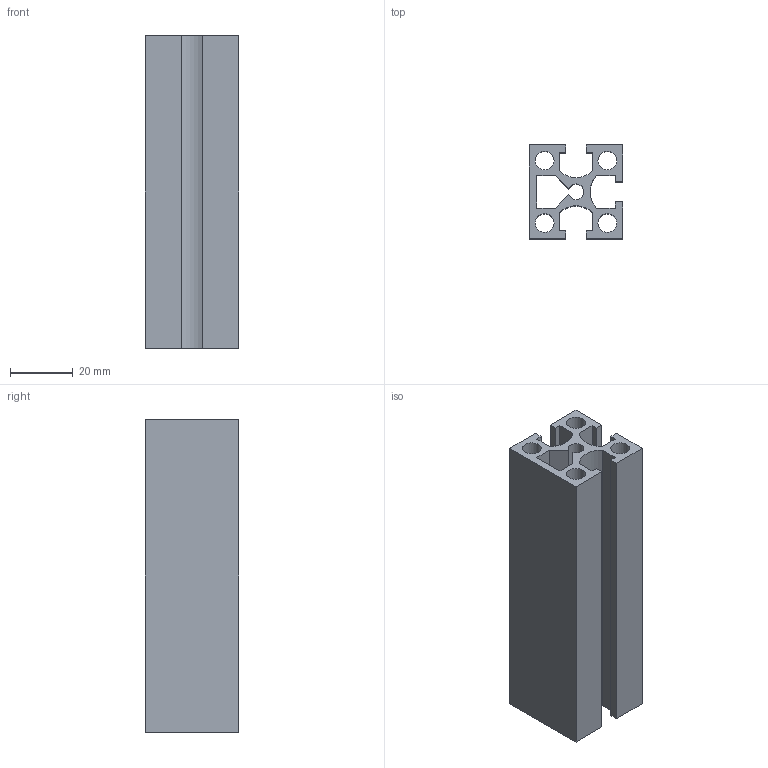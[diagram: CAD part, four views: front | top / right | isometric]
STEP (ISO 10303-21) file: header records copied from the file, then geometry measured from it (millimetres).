
FILE_DESCRIPTION(/* description */ ('Unknown'),/* implementation_level */ '2;1');
FILE_NAME(/* name */ 'NM3030C1',/* time_stamp */ '2026-08-31T11:14:06+08:00',/* author */ ('Unknown'),/* organization */ ('Unknown'),/* preprocessor_version */ 'ST-DEVELOPER v16.7',/* originating_system */ 'DEX',/* authorisation */ $);
FILE_SCHEMA (('AUTOMOTIVE_DESIGN {1 0 10303 214 3 1 1}'));
Length unit declared in the file: millimetre
Products named in the file (1): 3030C1
Bounding box: 30 x 30 x 100 mm (x, y, z)
Volume: 39956.7 mm3; surface area: 32917 mm2
Topology: 1 solids, 1 shells, 40 faces, 114 edges, 76 vertices
Faces by surface type: plane 32, cylinder 8
Full cylindrical faces by diameter (mm): 6 x4
Entity records: 1324 total; most frequent: CARTESIAN_POINT 227, ORIENTED_EDGE 220, DIRECTION 208, EDGE_CURVE 110, LINE 94, VECTOR 94, VERTEX_POINT 76, AXIS2_PLACEMENT_3D 57
